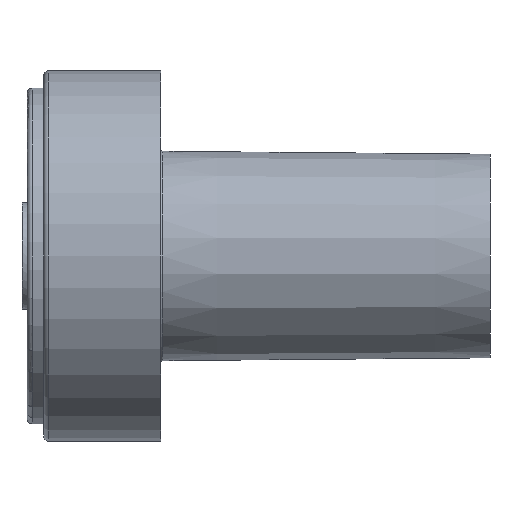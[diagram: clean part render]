
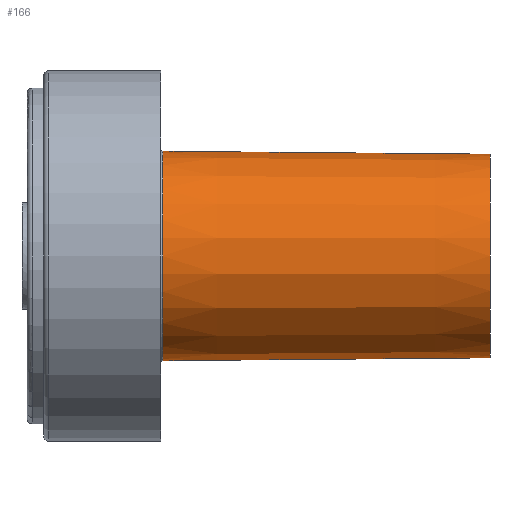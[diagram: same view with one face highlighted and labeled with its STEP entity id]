
A CAD part, left-side view. The second image highlights one B-rep face of the part: STEP entity #166.
In plain terms, the highlighted conical face has half-angle 0.5 degrees and reference radius 4.95 mm.
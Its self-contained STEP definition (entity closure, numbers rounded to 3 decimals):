
#151=CONICAL_SURFACE('',#476,4.95,0.5);
#166=ADVANCED_FACE('',(#219,#220),#151,.T.);
#219=FACE_BOUND('',#246,.T.);
#220=FACE_BOUND('',#247,.T.);
#246=EDGE_LOOP('',(#291));
#247=EDGE_LOOP('',(#292));
#291=ORIENTED_EDGE('',*,*,#410,.F.);
#292=ORIENTED_EDGE('',*,*,#409,.T.);
#376=VERTEX_POINT('',#666);
#377=VERTEX_POINT('',#669);
#409=EDGE_CURVE('',#376,#376,#448,.T.);
#410=EDGE_CURVE('',#377,#377,#449,.T.);
#448=CIRCLE('',#473,4.95);
#449=CIRCLE('',#475,5.089);
#473=AXIS2_PLACEMENT_3D('',#665,#541,#542);
#475=AXIS2_PLACEMENT_3D('',#668,#545,#546);
#476=AXIS2_PLACEMENT_3D('',#670,#547,#548);
#541=DIRECTION('',(0.,1.,0.));
#542=DIRECTION('',(0.,0.,1.));
#545=DIRECTION('',(0.,1.,0.));
#546=DIRECTION('',(0.,0.,1.));
#547=DIRECTION('',(0.,1.,0.));
#548=DIRECTION('',(0.,0.,1.));
#665=CARTESIAN_POINT('',(0.,0.,0.));
#666=CARTESIAN_POINT('',(0.,0.,4.95));
#668=CARTESIAN_POINT('',(0.,15.901,0.));
#669=CARTESIAN_POINT('',(0.,15.901,5.089));
#670=CARTESIAN_POINT('',(0.,0.,0.));
